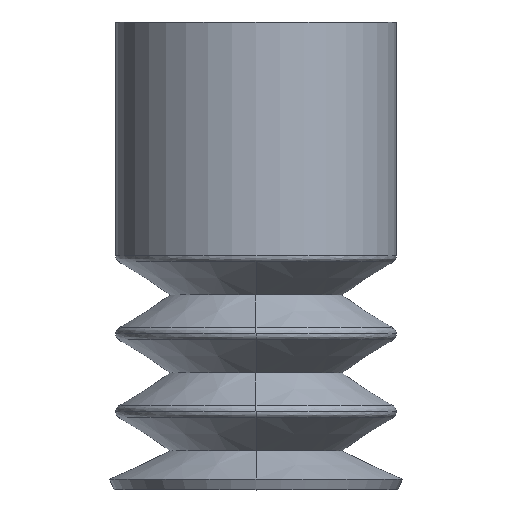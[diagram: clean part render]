
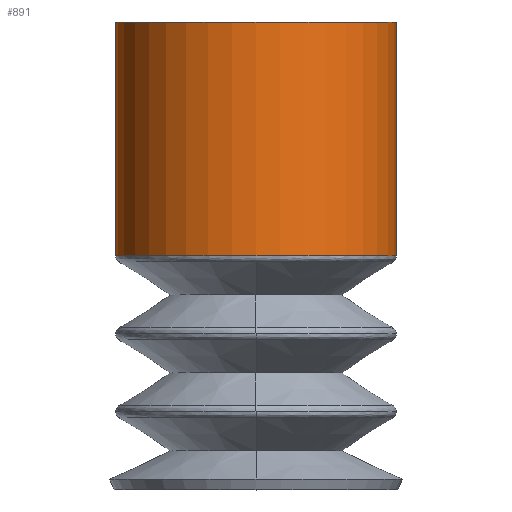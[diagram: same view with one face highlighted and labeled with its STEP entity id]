
A CAD part, top view. The second image highlights one B-rep face of the part: STEP entity #891.
In plain terms, the highlighted cylindrical face has radius 4.5 mm (diameter 9 mm), a partial arc.
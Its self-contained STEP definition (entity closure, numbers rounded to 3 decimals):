
#71 = AXIS2_PLACEMENT_3D ( 'NONE', #1501, #387, #1100 ) ;
#93 = CARTESIAN_POINT ( 'NONE',  ( -4.5, -7.5, 0. ) ) ;
#99 = DIRECTION ( 'NONE',  ( 0., 0., 1. ) ) ;
#120 = DIRECTION ( 'NONE',  ( 0., 1., 0. ) ) ;
#151 = VECTOR ( 'NONE', #120, 1000. ) ;
#170 = ORIENTED_EDGE ( 'NONE', *, *, #881, .T. ) ;
#247 = CARTESIAN_POINT ( 'NONE',  ( 4.5, -7.5, 0. ) ) ;
#297 = DIRECTION ( 'NONE',  ( -1., 0., 0. ) ) ;
#318 = CARTESIAN_POINT ( 'NONE',  ( 4.5, 0., 0. ) ) ;
#345 = ORIENTED_EDGE ( 'NONE', *, *, #825, .F. ) ;
#387 = DIRECTION ( 'NONE',  ( 0., 1., 0. ) ) ;
#414 = CARTESIAN_POINT ( 'NONE',  ( 0., 0., 0. ) ) ;
#486 = DIRECTION ( 'NONE',  ( 0., 1., 0. ) ) ;
#529 = CARTESIAN_POINT ( 'NONE',  ( -4.5, 0., 0. ) ) ;
#551 = EDGE_CURVE ( 'NONE', #1564, #982, #1369, .T. ) ;
#627 = ORIENTED_EDGE ( 'NONE', *, *, #765, .T. ) ;
#710 = VERTEX_POINT ( 'NONE', #318 ) ;
#733 = CARTESIAN_POINT ( 'NONE',  ( -4.5, -7.5, 0. ) ) ;
#735 = LINE ( 'NONE', #840, #873 ) ;
#765 = EDGE_CURVE ( 'NONE', #710, #982, #907, .T. ) ;
#825 = EDGE_CURVE ( 'NONE', #1356, #1564, #1245, .T. ) ;
#832 = CYLINDRICAL_SURFACE ( 'NONE', #71, 4.5 ) ;
#840 = CARTESIAN_POINT ( 'NONE',  ( 4.5, -7.5, 0. ) ) ;
#873 = VECTOR ( 'NONE', #486, 1000. ) ;
#881 = EDGE_CURVE ( 'NONE', #1356, #710, #735, .T. ) ;
#891 = ADVANCED_FACE ( 'NONE', ( #1513 ), #832, .T. ) ;
#892 = DIRECTION ( 'NONE',  ( 0., -1., 0. ) ) ;
#907 = CIRCLE ( 'NONE', #1111, 4.5 ) ;
#982 = VERTEX_POINT ( 'NONE', #529 ) ;
#1062 = CARTESIAN_POINT ( 'NONE',  ( 0., -7.5, 0. ) ) ;
#1100 = DIRECTION ( 'NONE',  ( -1., 0., 0. ) ) ;
#1111 = AXIS2_PLACEMENT_3D ( 'NONE', #414, #892, #297 ) ;
#1137 = EDGE_LOOP ( 'NONE', ( #345, #170, #627, #1419 ) ) ;
#1190 = DIRECTION ( 'NONE',  ( 0., -1., 0. ) ) ;
#1245 = CIRCLE ( 'NONE', #1434, 4.5 ) ;
#1356 = VERTEX_POINT ( 'NONE', #247 ) ;
#1369 = LINE ( 'NONE', #733, #151 ) ;
#1419 = ORIENTED_EDGE ( 'NONE', *, *, #551, .F. ) ;
#1434 = AXIS2_PLACEMENT_3D ( 'NONE', #1062, #1190, #99 ) ;
#1501 = CARTESIAN_POINT ( 'NONE',  ( 0., -7.5, 0. ) ) ;
#1513 = FACE_OUTER_BOUND ( 'NONE', #1137, .T. ) ;
#1564 = VERTEX_POINT ( 'NONE', #93 ) ;
